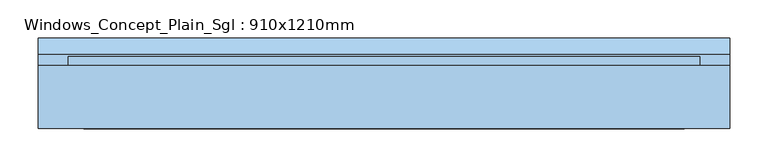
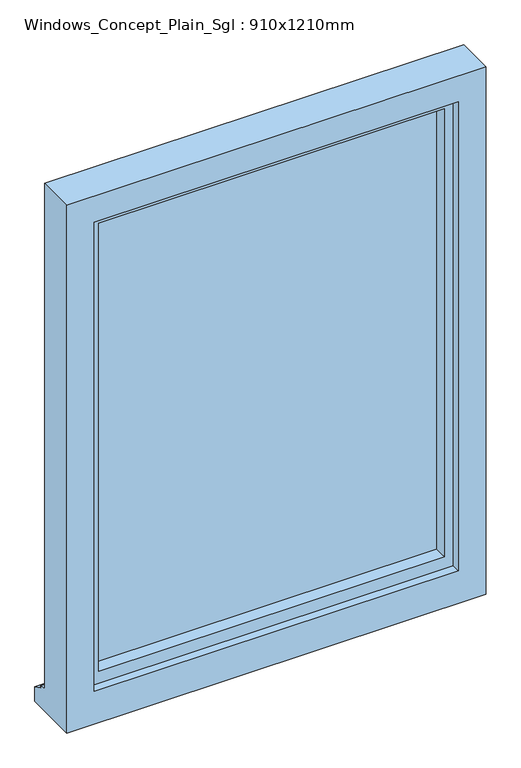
"""IFC4 building model written with IfcOpenShell, lengths in millimetres: window geometry, Windows_Concept_Plain_Sgl : 910x1210mm."""

from ifc_helpers import new_model, si_unit, frame, origin, place, context, project, spatial, polyline, outline, extrude, faceted_brep, source, transform, mapped, element, save


def windows_concept_plain_sgl_910x1210mm_ef0b7ad2(model_context):
    return source(origin(), model_context, "Body", "SolidModel", [
        faceted_brep([(-455.0, 76.4565678, 900.0), (455.0, 76.4565678, 900.0), (455.0, 76.4565678, 2110.0), (-455.0, 76.4565678, 2110.0), (-395.0, 76.4565678, 2050.0), (395.0, 76.4565678, 2050.0), (395.0, 76.4565678, 975.0), (-395.0, 76.4565678, 975.0), (-455.0, 159.4565678, 2110.0), (-455.0, 159.4565678, 951.0), (-455.0, 174.4565678, 949.68767), (-455.0, 174.4565678, 944.7449676), (-455.0, 195.9565678, 933.8088847), (-455.0, 195.9565678, 900.0), (455.0, 159.4565678, 2110.0), (455.0, 159.4565678, 951.0), (-415.0, 159.4565678, 2070.0), (-415.0, 159.4565678, 963.0), (415.0, 159.4565678, 963.0), (415.0, 159.4565678, 2070.0), (-415.0, 94.4565678, 2070.0), (-415.0, 94.4565678, 963.0), (415.0, 94.4565678, 2070.0), (415.0, 94.4565678, 963.0), (-395.0, 94.4565678, 2050.0), (-395.0, 94.4565678, 975.0), (395.0, 94.4565678, 975.0), (395.0, 94.4565678, 2050.0), (455.0, 195.9565678, 900.0), (455.0, 195.9565678, 933.8088847), (455.0, 174.4565678, 944.7449676), (455.0, 174.4565678, 949.68767)], [[[0, 1, 2, 3], [4, 5, 6, 7]], [[0, 3, 8, 9, 10, 11, 12, 13]], [[9, 8, 14, 15], [16, 17, 18, 19]], [[17, 16, 20, 21]], [[20, 22, 23, 21], [24, 25, 26, 27]], [[24, 4, 7, 25]], [[3, 2, 14, 8]], [[16, 19, 22, 20]], [[5, 4, 24, 27]], [[15, 14, 2, 1, 28, 29, 30, 31]], [[19, 18, 23, 22]], [[5, 27, 26, 6]], [[28, 1, 0, 13]], [[29, 28, 13, 12]], [[30, 29, 12, 11]], [[31, 30, 11, 10]], [[15, 31, 10, 9]], [[21, 23, 18, 17]], [[7, 6, 26, 25]]]),
        extrude(outline(polyline([(385.0, 123.4565678), (-385.0, 123.4565678), (-385.0, 147.4565678), (385.0, 147.4565678), (385.0, 123.4565678)])), frame((0.0, 0.0, 993.0), z_axis=(0.0, 0.0, 1.0), x_axis=(1.0, 0.0, 0.0)), (0.0, 0.0, 1.0), 1047.0),
        faceted_brep([(-415.0, 94.4565678, 2070.0), (-415.0, 171.0035732, 2070.0), (-415.0, 171.0035732, 963.0), (-415.0, 94.4565678, 963.0), (-375.0, 123.4565678, 2030.0), (-375.0, 94.4565678, 2030.0), (-375.0, 94.4565678, 1003.0), (-375.0, 123.4565678, 1003.0), (-385.0, 147.4565678, 2040.0), (-385.0, 123.4565678, 2040.0), (-385.0, 123.4565678, 993.0), (-385.0, 147.4565678, 993.0), (-375.0, 171.0035732, 2030.0), (-375.0, 147.4565678, 2030.0), (-375.0, 147.4565678, 1003.0), (-375.0, 171.0035732, 1003.0), (415.0, 171.0035732, 963.0), (415.0, 94.4565678, 963.0), (375.0, 94.4565678, 1003.0), (375.0, 123.4565678, 1003.0), (385.0, 123.4565678, 993.0), (385.0, 147.4565678, 993.0), (375.0, 147.4565678, 1003.0), (375.0, 171.0035732, 1003.0), (415.0, 171.0035732, 2070.0), (415.0, 94.4565678, 2070.0), (375.0, 94.4565678, 2030.0), (375.0, 123.4565678, 2030.0), (385.0, 123.4565678, 2040.0), (385.0, 147.4565678, 2040.0), (375.0, 147.4565678, 2030.0), (375.0, 171.0035732, 2030.0)], [[[0, 1, 2, 3]], [[4, 5, 6, 7]], [[8, 9, 10, 11]], [[12, 13, 14, 15]], [[3, 2, 16, 17]], [[7, 6, 18, 19]], [[11, 10, 20, 21]], [[15, 14, 22, 23]], [[17, 16, 24, 25]], [[19, 18, 26, 27]], [[21, 20, 28, 29]], [[23, 22, 30, 31]], [[1, 24, 16, 2], [15, 23, 31, 12]], [[25, 24, 1, 0]], [[3, 17, 25, 0], [5, 26, 18, 6]], [[27, 26, 5, 4]], [[9, 28, 20, 10], [7, 19, 27, 4]], [[29, 28, 9, 8]], [[11, 21, 29, 8], [13, 30, 22, 14]], [[31, 30, 13, 12]]]),
    ])


if __name__ == "__main__":
    model = new_model("IFC4")
    model_context = context("Model", 3, world=origin())
    ifc_project = project(units=[si_unit("LENGTHUNIT", "METRE", prefix="MILLI")], contexts=[model_context])
    site = spatial("IfcSite", under=ifc_project)
    building = spatial("IfcBuilding", under=site)
    placement = place(None, origin())
    windows_concept_plain_sgl_910x1210mm_shape = windows_concept_plain_sgl_910x1210mm_ef0b7ad2(model_context)
    element("IfcWindow", 1, ObjectType="Windows_Concept_Plain_Sgl : 910x1210mm", at=placement, inside=building, context=model_context, shape_type="MappedRepresentation", body=[
        mapped(windows_concept_plain_sgl_910x1210mm_shape, transform((0.0, 0.0, 0.0), x_axis=(1.0, 0.0, 0.0), y_axis=(0.0, 1.0, 0.0), z_axis=(0.0, 0.0, 1.0))),
    ])
    save(model, "model.ifc")
